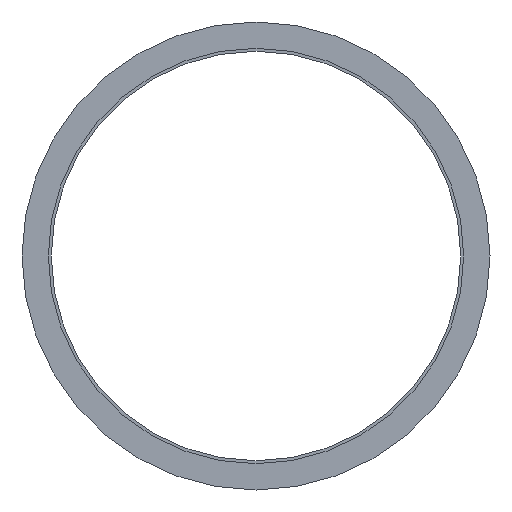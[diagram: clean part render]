
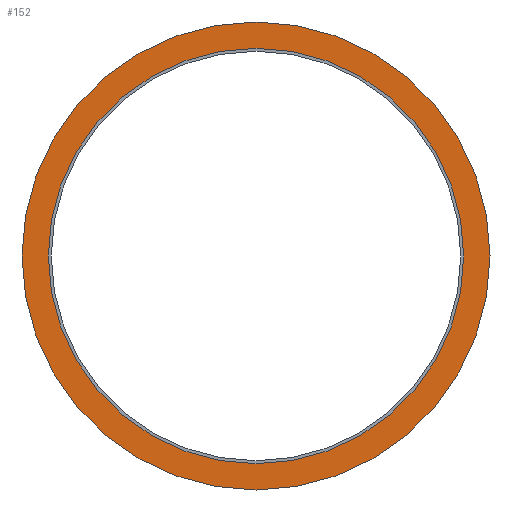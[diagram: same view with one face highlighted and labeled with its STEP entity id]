
A CAD part, left-side view. The second image highlights one B-rep face of the part: STEP entity #152.
In plain terms, the highlighted planar face has unit normal (-1, 0, 0).
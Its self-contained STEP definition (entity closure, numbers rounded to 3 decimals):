
#7 = DIRECTION ( 'NONE',  ( -1., 0., 0. ) ) ;
#25 = DIRECTION ( 'NONE',  ( 1., 0., 0. ) ) ;
#34 = CIRCLE ( 'NONE', #180, 21.3 ) ;
#37 = CARTESIAN_POINT ( 'NONE',  ( -3.977, -0.15, -21.3 ) ) ;
#52 = CARTESIAN_POINT ( 'NONE',  ( -3.977, -0.15, -24. ) ) ;
#69 = DIRECTION ( 'NONE',  ( 1., 0., 0. ) ) ;
#79 = CARTESIAN_POINT ( 'NONE',  ( -3.977, -0.15, 0. ) ) ;
#85 = FACE_OUTER_BOUND ( 'NONE', #99, .T. ) ;
#89 = DIRECTION ( 'NONE',  ( 0., 0., -1. ) ) ;
#92 = VERTEX_POINT ( 'NONE', #282 ) ;
#96 = ORIENTED_EDGE ( 'NONE', *, *, #101, .F. ) ;
#99 = EDGE_LOOP ( 'NONE', ( #96, #303 ) ) ;
#101 = EDGE_CURVE ( 'NONE', #406, #401, #357, .T. ) ;
#104 = FACE_BOUND ( 'NONE', #358, .T. ) ;
#117 = CARTESIAN_POINT ( 'NONE',  ( -3.977, -0.15, 0. ) ) ;
#126 = CARTESIAN_POINT ( 'NONE',  ( -3.977, -0.15, 0. ) ) ;
#136 = DIRECTION ( 'NONE',  ( 0., 0., -1. ) ) ;
#151 = AXIS2_PLACEMENT_3D ( 'NONE', #126, #7, #362 ) ;
#152 = ADVANCED_FACE ( 'NONE', ( #104, #85 ), #184, .T. ) ;
#157 = AXIS2_PLACEMENT_3D ( 'NONE', #248, #25, #174 ) ;
#159 = CARTESIAN_POINT ( 'NONE',  ( -3.977, -0.15, 0. ) ) ;
#174 = DIRECTION ( 'NONE',  ( 0., 0., -1. ) ) ;
#175 = DIRECTION ( 'NONE',  ( 1., 0., 0. ) ) ;
#180 = AXIS2_PLACEMENT_3D ( 'NONE', #117, #175, #220 ) ;
#184 = PLANE ( 'NONE',  #151 ) ;
#188 = EDGE_CURVE ( 'NONE', #401, #406, #312, .T. ) ;
#192 = ORIENTED_EDGE ( 'NONE', *, *, #315, .T. ) ;
#194 = ORIENTED_EDGE ( 'NONE', *, *, #370, .T. ) ;
#195 = CARTESIAN_POINT ( 'NONE',  ( -3.977, -0.15, 24. ) ) ;
#220 = DIRECTION ( 'NONE',  ( 0., 0., -1. ) ) ;
#245 = DIRECTION ( 'NONE',  ( 1., 0., 0. ) ) ;
#248 = CARTESIAN_POINT ( 'NONE',  ( -3.977, -0.15, 0. ) ) ;
#273 = AXIS2_PLACEMENT_3D ( 'NONE', #159, #245, #89 ) ;
#282 = CARTESIAN_POINT ( 'NONE',  ( -3.977, -0.15, 21.3 ) ) ;
#303 = ORIENTED_EDGE ( 'NONE', *, *, #188, .F. ) ;
#306 = AXIS2_PLACEMENT_3D ( 'NONE', #79, #69, #136 ) ;
#312 = CIRCLE ( 'NONE', #157, 24. ) ;
#315 = EDGE_CURVE ( 'NONE', #398, #92, #34, .T. ) ;
#357 = CIRCLE ( 'NONE', #306, 24. ) ;
#358 = EDGE_LOOP ( 'NONE', ( #192, #194 ) ) ;
#362 = DIRECTION ( 'NONE',  ( 0., 0., 1. ) ) ;
#370 = EDGE_CURVE ( 'NONE', #92, #398, #386, .T. ) ;
#386 = CIRCLE ( 'NONE', #273, 21.3 ) ;
#398 = VERTEX_POINT ( 'NONE', #37 ) ;
#401 = VERTEX_POINT ( 'NONE', #195 ) ;
#406 = VERTEX_POINT ( 'NONE', #52 ) ;
